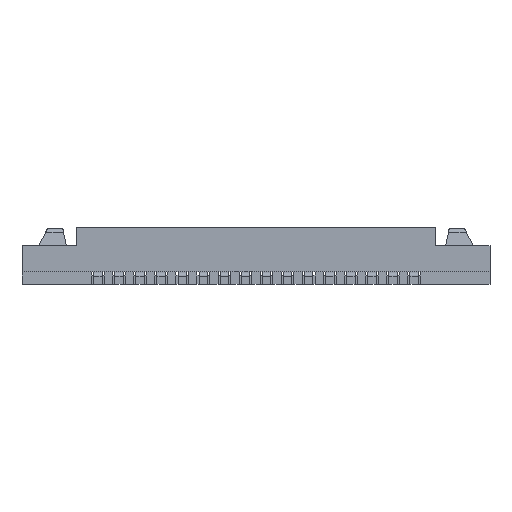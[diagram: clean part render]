
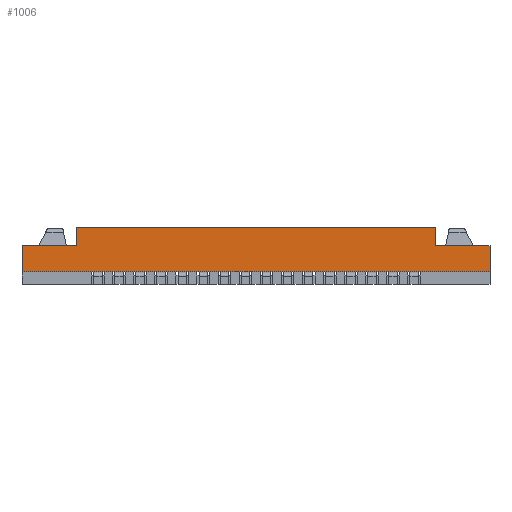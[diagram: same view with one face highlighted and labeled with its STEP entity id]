
A CAD part, front view. The second image highlights one B-rep face of the part: STEP entity #1006.
In plain terms, the highlighted planar face has unit normal (0, -1, 0).
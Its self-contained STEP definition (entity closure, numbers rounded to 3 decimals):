
#399=CARTESIAN_POINT('Vertex',(-4.25,-2.4,0.92)) ;
#402=CARTESIAN_POINT('Line Origine',(-4.25,-2.4,1.135)) ;
#406=CARTESIAN_POINT('Vertex',(-4.25,-2.4,1.35)) ;
#944=CARTESIAN_POINT('Axis2P3D Location',(0.,-2.4,0.3)) ;
#949=CARTESIAN_POINT('Line Origine',(-4.9,-2.4,0.92)) ;
#953=CARTESIAN_POINT('Vertex',(-5.55,-2.4,0.92)) ;
#956=CARTESIAN_POINT('Line Origine',(-5.55,-2.4,0.61)) ;
#960=CARTESIAN_POINT('Vertex',(-5.55,-2.4,0.3)) ;
#963=CARTESIAN_POINT('Line Origine',(0.,-2.4,0.3)) ;
#967=CARTESIAN_POINT('Vertex',(5.55,-2.4,0.3)) ;
#970=CARTESIAN_POINT('Line Origine',(5.55,-2.4,0.61)) ;
#974=CARTESIAN_POINT('Vertex',(5.55,-2.4,0.92)) ;
#977=CARTESIAN_POINT('Line Origine',(4.9,-2.4,0.92)) ;
#981=CARTESIAN_POINT('Vertex',(4.25,-2.4,0.92)) ;
#984=CARTESIAN_POINT('Line Origine',(4.25,-2.4,1.135)) ;
#988=CARTESIAN_POINT('Vertex',(4.25,-2.4,1.35)) ;
#991=CARTESIAN_POINT('Line Origine',(0.,-2.4,1.35)) ;
#403=DIRECTION('Vector Direction',(0.,0.,-1.)) ;
#945=DIRECTION('Axis2P3D Direction',(0.,1.,0.)) ;
#946=DIRECTION('Axis2P3D XDirection',(0.,0.,1.)) ;
#950=DIRECTION('Vector Direction',(1.,0.,0.)) ;
#957=DIRECTION('Vector Direction',(0.,0.,1.)) ;
#964=DIRECTION('Vector Direction',(1.,0.,0.)) ;
#971=DIRECTION('Vector Direction',(0.,0.,1.)) ;
#978=DIRECTION('Vector Direction',(-1.,0.,0.)) ;
#985=DIRECTION('Vector Direction',(0.,0.,-1.)) ;
#992=DIRECTION('Vector Direction',(1.,0.,0.)) ;
#947=AXIS2_PLACEMENT_3D('Plane Axis2P3D',#944,#945,#946) ;
#997=ORIENTED_EDGE('',*,*,#408,.T.) ;
#998=ORIENTED_EDGE('',*,*,#955,.F.) ;
#999=ORIENTED_EDGE('',*,*,#962,.T.) ;
#1000=ORIENTED_EDGE('',*,*,#969,.T.) ;
#1001=ORIENTED_EDGE('',*,*,#976,.F.) ;
#1002=ORIENTED_EDGE('',*,*,#983,.T.) ;
#1003=ORIENTED_EDGE('',*,*,#990,.F.) ;
#1004=ORIENTED_EDGE('',*,*,#995,.F.) ;
#404=VECTOR('Line Direction',#403,1.) ;
#951=VECTOR('Line Direction',#950,1.) ;
#958=VECTOR('Line Direction',#957,1.) ;
#965=VECTOR('Line Direction',#964,1.) ;
#972=VECTOR('Line Direction',#971,1.) ;
#979=VECTOR('Line Direction',#978,1.) ;
#986=VECTOR('Line Direction',#985,1.) ;
#993=VECTOR('Line Direction',#992,1.) ;
#1006=ADVANCED_FACE('\X2\96F64EF651E04F554F53\X0\',(#1005),#948,.F.) ;
#408=EDGE_CURVE('',#407,#400,#405,.T.) ;
#955=EDGE_CURVE('',#954,#400,#952,.T.) ;
#962=EDGE_CURVE('',#954,#961,#959,.F.) ;
#969=EDGE_CURVE('',#961,#968,#966,.T.) ;
#976=EDGE_CURVE('',#975,#968,#973,.F.) ;
#983=EDGE_CURVE('',#975,#982,#980,.T.) ;
#990=EDGE_CURVE('',#989,#982,#987,.T.) ;
#995=EDGE_CURVE('',#407,#989,#994,.T.) ;
#996=EDGE_LOOP('',(#997,#998,#999,#1000,#1001,#1002,#1003,#1004)) ;
#1005=FACE_OUTER_BOUND('',#996,.T.) ;
#405=LINE('Line',#402,#404) ;
#952=LINE('Line',#949,#951) ;
#959=LINE('Line',#956,#958) ;
#966=LINE('Line',#963,#965) ;
#973=LINE('Line',#970,#972) ;
#980=LINE('Line',#977,#979) ;
#987=LINE('Line',#984,#986) ;
#994=LINE('Line',#991,#993) ;
#948=PLANE('Plane',#947) ;
#400=VERTEX_POINT('',#399) ;
#407=VERTEX_POINT('',#406) ;
#954=VERTEX_POINT('',#953) ;
#961=VERTEX_POINT('',#960) ;
#968=VERTEX_POINT('',#967) ;
#975=VERTEX_POINT('',#974) ;
#982=VERTEX_POINT('',#981) ;
#989=VERTEX_POINT('',#988) ;
